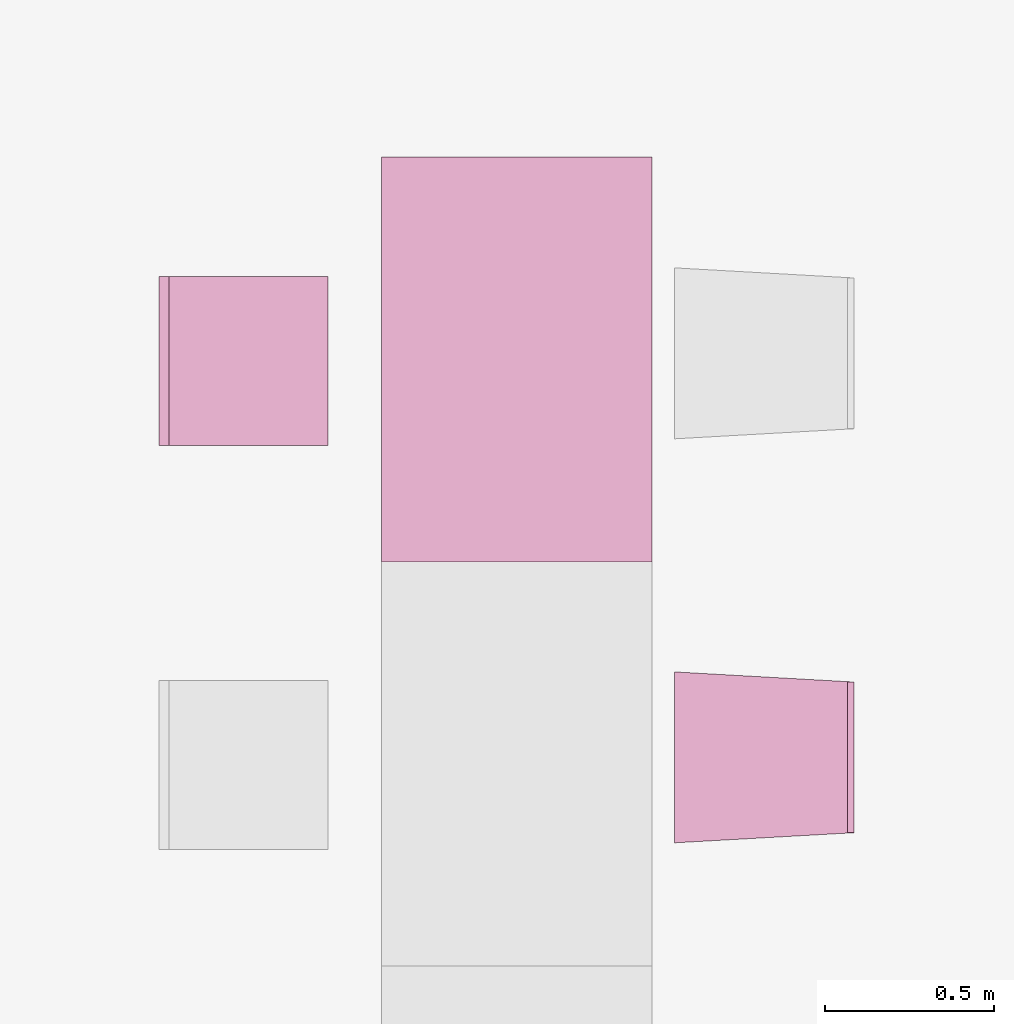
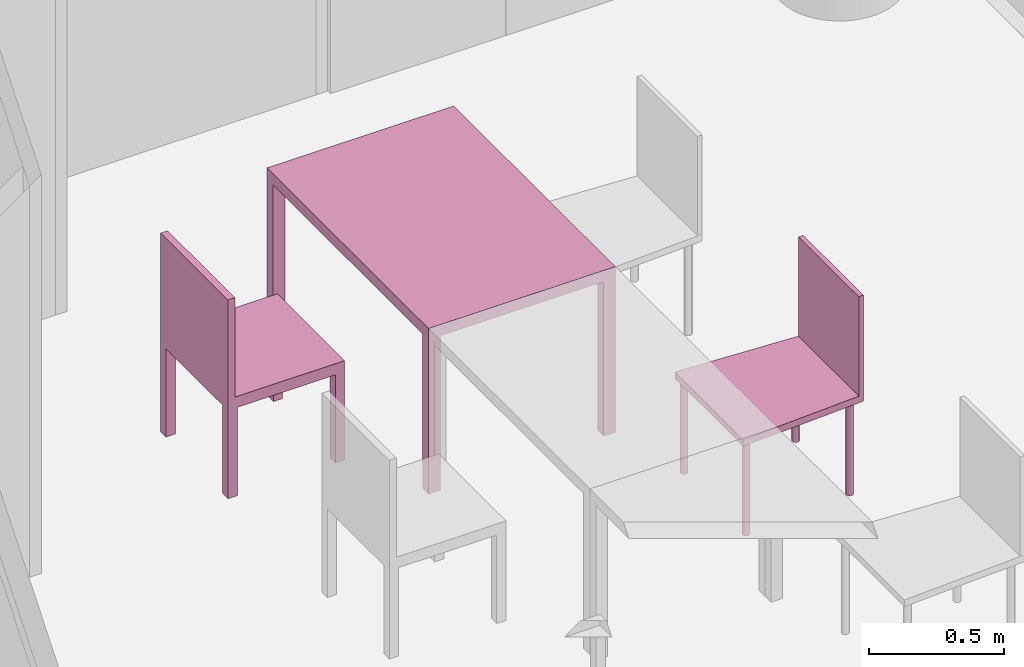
"""IFC4 building model written with IfcOpenShell, lengths in metres."""

import ifcopenshell
import ifcopenshell.guid

model = None  # the IFC model being written
_history = None  # IfcOwnerHistory: only IFC2X3 demands one
_inside = {}  # id of a spatial element -> (the spatial element, [elements in it])
_under = {}  # id of a project, library or spatial element -> (it, [spatial elements below it])
_declared = {}  # id of a project -> (the project, [libraries it declares])
_typed = {}  # id of a type object -> (the type object, [elements of that type])
_made_of = {}  # id of a material, layer set ... -> (it, [elements and type objects made of it])


def new_model(schema):
    """Start an empty IFC model of exactly this schema.

    Asked for "IFC4X3", IfcOpenShell would pick the latest addendum, in which some entities
    have other attributes; the version numbers below select the first issue.
    IFC2X3 requires an IfcOwnerHistory on every rooted entity: one is made here for all.
    """
    global model, _history
    if schema == "IFC4X3":
        model = ifcopenshell.file(schema_version=(4, 3, 0, 0))
    else:
        model = ifcopenshell.file(schema=schema)
    _inside.clear()
    _under.clear()
    _declared.clear()
    _typed.clear()
    _made_of.clear()
    _history = None
    if model.schema == "IFC2X3":
        org = make("IfcOrganization", Name="unknown")
        user = make(
            "IfcPersonAndOrganization",
            ThePerson=make("IfcPerson", FamilyName="unknown"),
            TheOrganization=org,
        )
        app = make(
            "IfcApplication",
            ApplicationDeveloper=org,
            Version="unknown",
            ApplicationFullName="unknown",
            ApplicationIdentifier="unknown",
        )
        _history = make(
            "IfcOwnerHistory",
            OwningUser=user,
            OwningApplication=app,
            ChangeAction="ADDED",
            CreationDate=0,
        )
    return model


def make(cls, **values):
    """One entity of the class cls with the attributes given. An attribute that is None is left unset."""
    return model.create_entity(
        cls, **{name: value for name, value in values.items() if value is not None}
    )


def entity(cls, *values):
    """Any entity or typed value of the class cls, its attributes in the order of the schema. None: left unset."""
    e = model.create_entity(cls)
    for i, value in enumerate(values):
        if value is not None:
            e[i] = value
    return e


def rooted(cls, **values):
    """An entity with a GlobalId (a new one), such as an element, a storey or a relation."""
    return make(cls, GlobalId=ifcopenshell.guid.new(), OwnerHistory=_history, **values)


def si_unit(unit_type, name, prefix=None):
    """IfcSIUnit, for example si_unit("LENGTHUNIT", "METRE", prefix="MILLI")."""
    return make("IfcSIUnit", UnitType=unit_type, Prefix=prefix, Name=name)


def converted_unit(unit_type, name, factor, base, dimensions=None, offset=None):
    """IfcConversionBasedUnit, such as the inch: factor (a typed value) times the base unit."""
    return make(
        "IfcConversionBasedUnit"
        if offset is None
        else "IfcConversionBasedUnitWithOffset",
        ConversionOffset=offset,
        Dimensions=None
        if dimensions is None
        else entity("IfcDimensionalExponents", *dimensions),
        UnitType=unit_type,
        Name=name,
        ConversionFactor=make(
            "IfcMeasureWithUnit", ValueComponent=factor, UnitComponent=base
        ),
    )


def derived_unit(unit_type, elements):
    """IfcDerivedUnit: a product of units, each with its exponent."""
    return make(
        "IfcDerivedUnit",
        Elements=[
            make("IfcDerivedUnitElement", Unit=unit, Exponent=power)
            for unit, power in elements
        ],
        UnitType=unit_type,
    )


def assignment(units):
    """IfcUnitAssignment: the units of a project."""
    return None if units is None else make("IfcUnitAssignment", Units=units)


def point(xyz):
    """IfcCartesianPoint."""
    return None if xyz is None else make("IfcCartesianPoint", Coordinates=xyz)


def direction(xyz):
    """IfcDirection."""
    return None if xyz is None else make("IfcDirection", DirectionRatios=xyz)


def frame(location, z_axis=None, x_axis=None):
    """IfcAxis2Placement3D, a coordinate frame: its origin and axes. An axis left out is left unset."""
    return make(
        "IfcAxis2Placement3D",
        Location=point(location),
        Axis=direction(z_axis),
        RefDirection=direction(x_axis),
    )


def origin():
    """The frame at (0, 0, 0) with its axes left unset."""
    return frame((0.0, 0.0, 0.0))


def place(relative_to, where):
    """IfcLocalPlacement: puts the frame where relative to a parent placement (None: the world)."""
    return make(
        "IfcLocalPlacement", PlacementRelTo=relative_to, RelativePlacement=where
    )


def context(
    kind, dimensions, precision=None, world=None, true_north=None, identifier=None
):
    """IfcGeometricRepresentationContext, for example the 3D "Model" context."""
    return make(
        "IfcGeometricRepresentationContext",
        ContextIdentifier=identifier,
        ContextType=kind,
        CoordinateSpaceDimension=dimensions,
        Precision=precision,
        WorldCoordinateSystem=world,
        TrueNorth=true_north,
    )


def subcontext(parent, identifier, kind, view, scale=None):
    """IfcGeometricRepresentationSubContext, for example "Body" below "Model"."""
    return make(
        "IfcGeometricRepresentationSubContext",
        ContextIdentifier=identifier,
        ContextType=kind,
        ParentContext=parent,
        TargetScale=scale,
        TargetView=view,
    )


def project(units=None, contexts=None):
    """IfcProject with its units and contexts."""
    return rooted(
        "IfcProject",
        Name="project",
        RepresentationContexts=contexts,
        UnitsInContext=assignment(units),
    )


def spatial(cls, under=None, at=None, **own):
    """A site, building, storey or space (cls), placed at a placement, below another one or the project."""
    s = rooted(cls, ObjectPlacement=at, **own)
    if under is not None:
        _under.setdefault(under.id(), (under, []))[1].append(s)
    return s


def faces_of(points, faces, orient=None, outer=None):
    """IfcFace entities. A face is a list of loops; a loop is a list of indices into points, from 0.

    orient and outer hold one flag for each loop. By default every Orientation is true, the
    first loop of a face is its IfcFaceOuterBound and the others are IfcFaceBound.
    """
    made = []
    for i, loops in enumerate(faces):
        bounds = []
        for j, loop in enumerate(loops):
            is_outer = j == 0 if outer is None else outer[i][j]
            bounds.append(
                make(
                    "IfcFaceOuterBound" if is_outer else "IfcFaceBound",
                    Bound=make("IfcPolyLoop", Polygon=[points[k] for k in loop]),
                    Orientation=True if orient is None else orient[i][j],
                )
            )
        made.append(make("IfcFace", Bounds=bounds))
    return made


def faceted_brep(points, faces, orient=None, outer=None, voids=None):
    """IfcFacetedBrep: a solid bounded by flat faces; with voids (closed shells), ...WithVoids."""
    shared = [point(p) for p in points]
    hull = make("IfcClosedShell", CfsFaces=faces_of(shared, faces, orient, outer))
    if voids is None:
        return make("IfcFacetedBrep", Outer=hull)
    return make(
        "IfcFacetedBrepWithVoids",
        Outer=hull,
        Voids=[
            make(cls, CfsFaces=faces_of(shared, fs, o, b)) for cls, fs, o, b in voids
        ],
    )


def shape(context_of_items, identifier, shape_type, items):
    """IfcShapeRepresentation: the items that make up one representation, for example the "Body"."""
    return make(
        "IfcShapeRepresentation",
        ContextOfItems=context_of_items,
        RepresentationIdentifier=identifier,
        RepresentationType=shape_type,
        Items=items,
    )


def made_of(thing, what):
    """Note that an element or type object is made of a material, layer set ...; save() writes the relation."""
    if what is not None:
        _made_of.setdefault(what.id(), (what, []))[1].append(thing)
    return thing


def element(
    cls,
    number,
    at=None,
    inside=None,
    cuts=None,
    type_object=None,
    material=None,
    context=None,
    identifier="Body",
    shape_type=None,
    held_by="IfcProductDefinitionShape",
    body=None,
    shapes=None,
    **own,
):
    """One element of the class cls, such as IfcWall. Its Tag is "e" and its number.

    at: its placement. inside: the storey or other place that contains it. cuts: it is an
    opening in that element (IfcRelVoidsElement). A single representation is given by context,
    identifier, shape_type and body (its items); several are given by shapes. held_by: the class
    of the entity that holds the representations. save() writes the other relations.
    """
    e = rooted(cls, Tag="e%d" % number, ObjectPlacement=at, **own)
    if body is not None:
        shapes = [shape(context, identifier, shape_type, body)]
    if shapes is not None:
        e.Representation = make(held_by, Representations=shapes)
    if inside is not None:
        _inside.setdefault(inside.id(), (inside, []))[1].append(e)
    if cuts is not None:
        rooted(
            "IfcRelVoidsElement", RelatingBuildingElement=cuts, RelatedOpeningElement=e
        )
    if type_object is not None:
        _typed.setdefault(type_object.id(), (type_object, []))[1].append(e)
    return made_of(e, material)


def aggregate(whole, parts):
    """IfcRelAggregates: a whole, such as a stair, and the parts it consists of."""
    return rooted("IfcRelAggregates", RelatingObject=whole, RelatedObjects=parts)


def save(model, path):
    """Write the relations noted so far, then the file.

    IfcRelAggregates (storeys below a building ...), IfcRelContainedInSpatialStructure (elements
    in a storey), IfcRelDefinesByType, IfcRelAssociatesMaterial and IfcRelDeclares: one each for
    every whole, place, type object, material and project.
    """
    for whole, parts in _under.values():
        aggregate(whole, parts)
    for where, things in _inside.values():
        rooted(
            "IfcRelContainedInSpatialStructure",
            RelatedElements=things,
            RelatingStructure=where,
        )
    for kind, things in _typed.values():
        rooted("IfcRelDefinesByType", RelatedObjects=things, RelatingType=kind)
    for what, things in _made_of.values():
        rooted("IfcRelAssociatesMaterial", RelatedObjects=things, RelatingMaterial=what)
    for by, libraries in _declared.values():
        rooted("IfcRelDeclares", RelatingContext=by, RelatedDefinitions=libraries)
    model.write(path)


model = new_model("IFC4")

# Units and contexts
model_context = context("Model", 3, precision=1e-05, world=origin())
body_context = subcontext(model_context, "Body", "Model", "MODEL_VIEW")
ifc_project = project(units=[si_unit("LENGTHUNIT", "METRE"), si_unit("AREAUNIT", "SQUARE_METRE"), si_unit("VOLUMEUNIT", "CUBIC_METRE"), si_unit("MASSUNIT", "GRAM", prefix="KILO"), converted_unit("PLANEANGLEUNIT", "DEGREE", entity("IfcPlaneAngleMeasure", 0.0174532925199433), si_unit("PLANEANGLEUNIT", "RADIAN"), dimensions=[0, 0, 0, 0, 0, 0, 0]), derived_unit("THERMALTRANSMITTANCEUNIT", [(si_unit("POWERUNIT", "WATT"), 1), (si_unit("THERMODYNAMICTEMPERATUREUNIT", "KELVIN"), -1), (si_unit("LENGTHUNIT", "METRE"), -2)]), derived_unit("VOLUMETRICFLOWRATEUNIT", [(si_unit("LENGTHUNIT", "METRE"), 3), (converted_unit("TIMEUNIT", "hour", entity("IfcTimeMeasure", 3600.0), si_unit("TIMEUNIT", "SECOND"), dimensions=[0, 0, 1, 0, 0, 0, 0]), -1), (si_unit("LENGTHUNIT", "METRE"), -1)])], contexts=[model_context])

# Building, storeys
building_placement = place(None, origin())
building = spatial("IfcBuilding", under=ifc_project, at=building_placement, Name="HABITATGE PLURIFAMILIAR", CompositionType="ELEMENT")
storey_1_placement = place(building_placement, frame((0.0, 0.0, 6.25)))
storey_1 = spatial("IfcBuildingStorey", under=building, at=storey_1_placement, Name="PLANTA PRIMERA", CompositionType="ELEMENT", Elevation=6.25)
storey_2_placement = place(storey_1_placement, frame((0.0, 0.0, 3.35)))
storey_2 = spatial("IfcBuildingStorey", under=storey_1, at=storey_2_placement, Name="NOU", CompositionType="PARTIAL")

# Furniture
furniture_1_placement = place(storey_2_placement, frame((418.017336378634, 21.7941704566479, -3.35)))
element("IfcFurniture", 1, at=furniture_1_placement, inside=storey_2, Name="Taula 120X80_P1", context=body_context, shape_type="Brep", body=[
    faceted_brep([(0.750069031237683, 0.0464285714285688, 0.0), (0.750069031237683, 0.0, 0.0), (0.800069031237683, 0.0, 0.0), (0.800069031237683, 0.0464285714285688, 0.0), (0.800069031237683, 0.0464285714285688, 0.7), (0.800069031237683, 0.0, 0.7), (0.750069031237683, 0.0, 0.7), (0.750069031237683, 0.0464285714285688, 0.7)], [[[0, 1, 2, 3]], [[4, 5, 6, 7]], [[3, 4, 7, 0]], [[2, 5, 4, 3]], [[1, 6, 5, 2]], [[0, 7, 6, 1]]], orient=[[False], [False], [False], [False], [False], [False]]),
    faceted_brep([(0.0, 0.0464285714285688, 0.0), (0.0, 0.0, 0.0), (0.0500000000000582, 0.0, 0.0), (0.0500000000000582, 0.0464285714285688, 0.0), (0.0500000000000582, 0.0464285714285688, 0.7), (0.0500000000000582, 0.0, 0.7), (0.0, 0.0, 0.7), (0.0, 0.0464285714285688, 0.7)], [[[0, 1, 2, 3]], [[4, 5, 6, 7]], [[3, 4, 7, 0]], [[2, 5, 4, 3]], [[1, 6, 5, 2]], [[0, 7, 6, 1]]], orient=[[False], [False], [False], [False], [False], [False]]),
    faceted_brep([(0.750069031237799, 1.2, 0.0), (0.750069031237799, 1.15357142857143, 0.0), (0.800069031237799, 1.15357142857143, 0.0), (0.800069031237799, 1.2, 0.0), (0.800069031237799, 1.2, 0.7), (0.800069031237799, 1.15357142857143, 0.7), (0.750069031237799, 1.15357142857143, 0.7), (0.750069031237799, 1.2, 0.7)], [[[0, 1, 2, 3]], [[4, 5, 6, 7]], [[3, 4, 7, 0]], [[2, 5, 4, 3]], [[1, 6, 5, 2]], [[0, 7, 6, 1]]], orient=[[False], [False], [False], [False], [False], [False]]),
    faceted_brep([(0.0, 1.2, 0.0), (0.0, 1.15357142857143, 0.0), (0.0500000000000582, 1.15357142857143, 0.0), (0.0500000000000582, 1.2, 0.0), (0.0500000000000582, 1.2, 0.7), (0.0500000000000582, 1.15357142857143, 0.7), (0.0, 1.15357142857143, 0.7), (0.0, 1.2, 0.7)], [[[0, 1, 2, 3]], [[4, 5, 6, 7]], [[3, 4, 7, 0]], [[2, 5, 4, 3]], [[1, 6, 5, 2]], [[0, 7, 6, 1]]], orient=[[False], [False], [False], [False], [False], [False]]),
    faceted_brep([(0.0, 1.2, 0.7), (0.0, 0.0, 0.7), (0.800069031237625, 0.0, 0.7), (0.800069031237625, 1.2, 0.7), (0.800069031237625, 1.2, 0.75), (0.800069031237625, 0.0, 0.75), (0.0, 0.0, 0.75), (0.0, 1.2, 0.75)], [[[0, 1, 2, 3]], [[4, 5, 6, 7]], [[3, 4, 7, 0]], [[2, 5, 4, 3]], [[1, 6, 5, 2]], [[0, 7, 6, 1]]], orient=[[False], [False], [False], [False], [False], [False]]),
])
furniture_2_placement = place(storey_2_placement, frame((417.357575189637, 22.1401388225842, -3.34942958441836)))
element("IfcFurniture", 2, at=furniture_2_placement, inside=storey_2, Name="Cadira d'Oficina_P1", context=body_context, shape_type="Brep", body=[
    faceted_brep([(0.5, 0.0, 0.4), (0.5, 0.5, 0.4), (0.0, 0.5, 0.4), (0.0, 0.0, 0.4), (0.0, 0.0, 0.45), (0.0, 0.5, 0.45), (0.5, 0.5, 0.45), (0.5, 0.0, 0.45)], [[[0, 1, 2, 3]], [[4, 5, 6, 7]], [[3, 4, 7, 0]], [[2, 5, 4, 3]], [[1, 6, 5, 2]], [[0, 7, 6, 1]]], orient=[[False], [False], [False], [False], [False], [False]]),
    faceted_brep([(0.04, 0.5, 0.0), (0.0, 0.5, 0.0), (0.0, 0.46, 0.0), (0.04, 0.46, 0.0), (0.04, 0.46, 0.4), (0.0, 0.46, 0.4), (0.0, 0.5, 0.4), (0.04, 0.5, 0.4)], [[[0, 1, 2, 3]], [[4, 5, 6, 7]], [[3, 4, 7, 0]], [[2, 5, 4, 3]], [[1, 6, 5, 2]], [[0, 7, 6, 1]]], orient=[[False], [False], [False], [False], [False], [False]]),
    faceted_brep([(0.5, 0.5, 0.0), (0.46, 0.5, 0.0), (0.46, 0.46, 0.0), (0.5, 0.46, 0.0), (0.5, 0.46, 0.4), (0.46, 0.46, 0.4), (0.46, 0.5, 0.4), (0.5, 0.5, 0.4)], [[[0, 1, 2, 3]], [[4, 5, 6, 7]], [[3, 4, 7, 0]], [[2, 5, 4, 3]], [[1, 6, 5, 2]], [[0, 7, 6, 1]]], orient=[[False], [False], [False], [False], [False], [False]]),
    faceted_brep([(0.04, 0.04, 0.0), (0.0, 0.04, 0.0), (0.0, 0.0, 0.0), (0.04, 0.0, 0.0), (0.04, 0.0, 0.4), (0.0, 0.0, 0.4), (0.0, 0.04, 0.4), (0.04, 0.04, 0.4)], [[[0, 1, 2, 3]], [[4, 5, 6, 7]], [[3, 4, 7, 0]], [[2, 5, 4, 3]], [[1, 6, 5, 2]], [[0, 7, 6, 1]]], orient=[[False], [False], [False], [False], [False], [False]]),
    faceted_brep([(0.5, 0.04, 0.0), (0.46, 0.04, 0.0), (0.46, 0.0, 0.0), (0.5, 0.0, 0.0), (0.5, 0.0, 0.4), (0.46, 0.0, 0.4), (0.46, 0.04, 0.4), (0.5, 0.04, 0.4)], [[[0, 1, 2, 3]], [[4, 5, 6, 7]], [[3, 4, 7, 0]], [[2, 5, 4, 3]], [[1, 6, 5, 2]], [[0, 7, 6, 1]]], orient=[[False], [False], [False], [False], [False], [False]]),
    faceted_brep([(0.03, 0.5, 0.45), (0.0, 0.5, 0.45), (0.0, 0.0, 0.45), (0.03, 0.0, 0.45), (0.03, 0.0, 0.9), (0.0, 0.0, 0.9), (0.0, 0.5, 0.9), (0.03, 0.5, 0.9)], [[[0, 1, 2, 3]], [[4, 5, 6, 7]], [[3, 4, 7, 0]], [[2, 5, 4, 3]], [[1, 6, 5, 2]], [[0, 7, 6, 1]]], orient=[[False], [False], [False], [False], [False], [False]]),
])
furniture_3_placement = place(storey_2_placement, frame((418.884487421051, 20.9626927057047, -3.35114412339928)))
element("IfcFurniture", 3, at=furniture_3_placement, inside=storey_2, Name="Cadira confient_P1", context=body_context, shape_type="Brep", body=[
    faceted_brep([(0.0250324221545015, 0.497227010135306, 0.0), (0.0224394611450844, 0.496988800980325, 0.0), (0.0199272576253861, 0.496303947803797, 0.0), (0.0175721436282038, 0.495193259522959, 0.0), (0.015445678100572, 0.493690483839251, 0.0), (0.013612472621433, 0.491841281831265, 0.0), (0.0121282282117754, 0.489701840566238, 0.0), (0.0110380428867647, 0.487337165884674, 0.0), (0.0103750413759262, 0.48481910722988, 0.0), (0.0101593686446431, 0.482224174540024, 0.0), (0.0103975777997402, 0.479631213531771, 0.0), (0.0110824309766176, 0.477119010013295, 0.0), (0.0121931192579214, 0.474763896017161, 0.0), (0.0136958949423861, 0.472637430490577, 0.0), (0.0155450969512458, 0.470804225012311, 0.0), (0.017684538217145, 0.469319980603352, 0.0), (0.020049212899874, 0.468229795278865, 0.0), (0.0225672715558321, 0.467566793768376, 0.0), (0.0251622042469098, 0.467351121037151, 0.0), (0.027755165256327, 0.46758933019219, 0.0), (0.0302673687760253, 0.468274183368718, 0.0), (0.0326224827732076, 0.469384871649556, 0.0), (0.0347489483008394, 0.470887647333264, 0.0), (0.0365821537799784, 0.47273684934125, 0.0), (0.0380663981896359, 0.47487629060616, 0.0), (0.0391565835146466, 0.477240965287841, 0.0), (0.0398195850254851, 0.479759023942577, 0.0), (0.0400352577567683, 0.482353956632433, 0.0), (0.0397970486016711, 0.484946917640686, 0.0), (0.039112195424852, 0.48745912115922, 0.0), (0.03800150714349, 0.489814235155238, 0.0), (0.0364987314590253, 0.491940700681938, 0.0), (0.0346495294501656, 0.493773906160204, 0.0), (0.0325100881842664, 0.495258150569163, 0.0), (0.0301454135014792, 0.49634833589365, 0.0), (0.0276273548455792, 0.497011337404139, 0.0), (0.0250324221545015, 0.497227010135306, 0.448281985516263), (0.0276273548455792, 0.497011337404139, 0.448281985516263), (0.0301454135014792, 0.49634833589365, 0.448281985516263), (0.0325100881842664, 0.495258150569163, 0.448281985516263), (0.0346495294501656, 0.493773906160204, 0.448281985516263), (0.0364987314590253, 0.491940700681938, 0.448281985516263), (0.03800150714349, 0.489814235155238, 0.448281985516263), (0.039112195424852, 0.48745912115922, 0.448281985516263), (0.0397970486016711, 0.484946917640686, 0.448281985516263), (0.0400352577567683, 0.482353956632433, 0.448281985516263), (0.0398195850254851, 0.479759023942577, 0.448281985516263), (0.0391565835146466, 0.477240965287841, 0.448281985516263), (0.0380663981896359, 0.47487629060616, 0.448281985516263), (0.0365821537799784, 0.47273684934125, 0.448281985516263), (0.0347489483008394, 0.470887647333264, 0.448281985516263), (0.0326224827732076, 0.469384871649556, 0.448281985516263), (0.0302673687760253, 0.468274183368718, 0.448281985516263), (0.027755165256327, 0.46758933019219, 0.448281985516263), (0.0251622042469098, 0.467351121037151, 0.448281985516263), (0.0225672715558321, 0.467566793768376, 0.448281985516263), (0.020049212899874, 0.468229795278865, 0.448281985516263), (0.017684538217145, 0.469319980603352, 0.448281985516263), (0.0155450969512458, 0.470804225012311, 0.448281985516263), (0.0136958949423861, 0.472637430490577, 0.448281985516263), (0.0121931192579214, 0.474763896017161, 0.448281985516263), (0.0110824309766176, 0.477119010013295, 0.448281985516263), (0.0103975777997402, 0.479631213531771, 0.448281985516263), (0.0101593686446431, 0.482224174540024, 0.448281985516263), (0.0103750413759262, 0.48481910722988, 0.448281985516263), (0.0110380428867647, 0.487337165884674, 0.448281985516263), (0.0121282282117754, 0.489701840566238, 0.448281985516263), (0.013612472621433, 0.491841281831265, 0.448281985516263), (0.015445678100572, 0.493690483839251, 0.448281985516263), (0.0175721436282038, 0.495193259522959, 0.448281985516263), (0.0199272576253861, 0.496303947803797, 0.448281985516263), (0.0224394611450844, 0.496988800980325, 0.448281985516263)], [[[0, 1, 2, 3, 4, 5, 6, 7, 8, 9, 10, 11, 12, 13, 14, 15, 16, 17, 18, 19, 20, 21, 22, 23, 24, 25, 26, 27, 28, 29, 30, 31, 32, 33, 34, 35]], [[36, 37, 38, 39, 40, 41, 42, 43, 44, 45, 46, 47, 48, 49, 50, 51, 52, 53, 54, 55, 56, 57, 58, 59, 60, 61, 62, 63, 64, 65, 66, 67, 68, 69, 70, 71]], [[35, 37, 36, 0]], [[34, 38, 37, 35]], [[33, 39, 38, 34]], [[32, 40, 39, 33]], [[31, 41, 40, 32]], [[30, 42, 41, 31]], [[29, 43, 42, 30]], [[28, 44, 43, 29]], [[27, 45, 44, 28]], [[26, 46, 45, 27]], [[25, 47, 46, 26]], [[24, 48, 47, 25]], [[23, 49, 48, 24]], [[22, 50, 49, 23]], [[21, 51, 50, 22]], [[20, 52, 51, 21]], [[19, 53, 52, 20]], [[18, 54, 53, 19]], [[17, 55, 54, 18]], [[16, 56, 55, 17]], [[15, 57, 56, 16]], [[14, 58, 57, 15]], [[13, 59, 58, 14]], [[12, 60, 59, 13]], [[11, 61, 60, 12]], [[10, 62, 61, 11]], [[9, 63, 62, 10]], [[8, 64, 63, 9]], [[7, 65, 64, 8]], [[6, 66, 65, 7]], [[5, 67, 66, 6]], [[4, 68, 67, 5]], [[3, 69, 68, 4]], [[2, 70, 69, 3]], [[1, 71, 70, 2]], [[0, 36, 71, 1]]], orient=[[False], [False], [False], [False], [False], [False], [False], [False], [False], [False], [False], [False], [False], [False], [False], [False], [False], [False], [False], [False], [False], [False], [False], [False], [False], [False], [False], [False], [False], [False], [False], [False], [False], [False], [False], [False], [False], [False]]),
    faceted_brep([(0.487439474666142, 0.469589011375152, 0.0), (0.484846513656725, 0.469350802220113, 0.0), (0.482334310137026, 0.468665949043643, 0.0), (0.479979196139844, 0.467555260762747, 0.0), (0.477852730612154, 0.466052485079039, 0.0), (0.476019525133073, 0.464203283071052, 0.0), (0.474535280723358, 0.462063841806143, 0.0), (0.473445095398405, 0.459699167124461, 0.0), (0.472782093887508, 0.457181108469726, 0.0), (0.472566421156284, 0.45458617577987, 0.0), (0.472804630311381, 0.451993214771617, 0.0), (0.4734894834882, 0.449481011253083, 0.0), (0.474600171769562, 0.447125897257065, 0.0), (0.476102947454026, 0.444999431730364, 0.0), (0.477952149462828, 0.443166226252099, 0.0), (0.480091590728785, 0.44168198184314, 0.0), (0.482456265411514, 0.440591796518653, 0.0), (0.484974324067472, 0.439928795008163, 0.0), (0.487569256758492, 0.439713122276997, 0.0), (0.490162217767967, 0.439951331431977, 0.0), (0.492674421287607, 0.440636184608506, 0.0), (0.49502953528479, 0.441746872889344, 0.0), (0.49715600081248, 0.443249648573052, 0.0), (0.498989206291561, 0.445098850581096, 0.0), (0.500473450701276, 0.447238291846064, 0.0), (0.501563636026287, 0.449602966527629, 0.0), (0.502226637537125, 0.452121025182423, 0.0), (0.50244231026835, 0.454715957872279, 0.0), (0.502204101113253, 0.457308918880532, 0.0), (0.501519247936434, 0.459821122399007, 0.0), (0.500408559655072, 0.462176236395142, 0.0), (0.498905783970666, 0.464302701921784, 0.0), (0.497056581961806, 0.466135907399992, 0.0), (0.494917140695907, 0.467620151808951, 0.0), (0.49255246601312, 0.468710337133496, 0.0), (0.490034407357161, 0.469373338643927, 0.0), (0.487439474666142, 0.469589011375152, 0.448281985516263), (0.490034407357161, 0.469373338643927, 0.448281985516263), (0.49255246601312, 0.468710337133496, 0.448281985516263), (0.494917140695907, 0.467620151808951, 0.448281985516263), (0.497056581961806, 0.466135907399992, 0.448281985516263), (0.498905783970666, 0.464302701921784, 0.448281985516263), (0.500408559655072, 0.462176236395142, 0.448281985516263), (0.501519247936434, 0.459821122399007, 0.448281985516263), (0.502204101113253, 0.457308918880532, 0.448281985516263), (0.50244231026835, 0.454715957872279, 0.448281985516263), (0.502226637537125, 0.452121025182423, 0.448281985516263), (0.501563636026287, 0.449602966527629, 0.448281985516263), (0.500473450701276, 0.447238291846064, 0.448281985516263), (0.498989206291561, 0.445098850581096, 0.448281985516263), (0.49715600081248, 0.443249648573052, 0.448281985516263), (0.49502953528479, 0.441746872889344, 0.448281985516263), (0.492674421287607, 0.440636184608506, 0.448281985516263), (0.490162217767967, 0.439951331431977, 0.448281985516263), (0.487569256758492, 0.439713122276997, 0.448281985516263), (0.484974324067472, 0.439928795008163, 0.448281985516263), (0.482456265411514, 0.440591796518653, 0.448281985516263), (0.480091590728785, 0.44168198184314, 0.448281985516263), (0.477952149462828, 0.443166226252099, 0.448281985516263), (0.476102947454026, 0.444999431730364, 0.448281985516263), (0.474600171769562, 0.447125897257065, 0.448281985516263), (0.4734894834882, 0.449481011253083, 0.448281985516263), (0.472804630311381, 0.451993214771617, 0.448281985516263), (0.472566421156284, 0.45458617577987, 0.448281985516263), (0.472782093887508, 0.457181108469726, 0.448281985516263), (0.473445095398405, 0.459699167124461, 0.448281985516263), (0.474535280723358, 0.462063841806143, 0.448281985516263), (0.476019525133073, 0.464203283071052, 0.448281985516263), (0.477852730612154, 0.466052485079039, 0.448281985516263), (0.479979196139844, 0.467555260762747, 0.448281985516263), (0.482334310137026, 0.468665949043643, 0.448281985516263), (0.484846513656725, 0.469350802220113, 0.448281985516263)], [[[0, 1, 2, 3, 4, 5, 6, 7, 8, 9, 10, 11, 12, 13, 14, 15, 16, 17, 18, 19, 20, 21, 22, 23, 24, 25, 26, 27, 28, 29, 30, 31, 32, 33, 34, 35]], [[36, 37, 38, 39, 40, 41, 42, 43, 44, 45, 46, 47, 48, 49, 50, 51, 52, 53, 54, 55, 56, 57, 58, 59, 60, 61, 62, 63, 64, 65, 66, 67, 68, 69, 70, 71]], [[35, 37, 36, 0]], [[34, 38, 37, 35]], [[33, 39, 38, 34]], [[32, 40, 39, 33]], [[31, 41, 40, 32]], [[30, 42, 41, 31]], [[29, 43, 42, 30]], [[28, 44, 43, 29]], [[27, 45, 44, 28]], [[26, 46, 45, 27]], [[25, 47, 46, 26]], [[24, 48, 47, 25]], [[23, 49, 48, 24]], [[22, 50, 49, 23]], [[21, 51, 50, 22]], [[20, 52, 51, 21]], [[19, 53, 52, 20]], [[18, 54, 53, 19]], [[17, 55, 54, 18]], [[16, 56, 55, 17]], [[15, 57, 56, 16]], [[14, 58, 57, 15]], [[13, 59, 58, 14]], [[12, 60, 59, 13]], [[11, 61, 60, 12]], [[10, 62, 61, 11]], [[9, 63, 62, 10]], [[8, 64, 63, 9]], [[7, 65, 64, 8]], [[6, 66, 65, 7]], [[5, 67, 66, 6]], [[4, 68, 67, 5]], [[3, 69, 68, 4]], [[2, 70, 69, 3]], [[1, 71, 70, 2]], [[0, 36, 71, 1]]], orient=[[False], [False], [False], [False], [False], [False], [False], [False], [False], [False], [False], [False], [False], [False], [False], [False], [False], [False], [False], [False], [False], [False], [False], [False], [False], [False], [False], [False], [False], [False], [False], [False], [False], [False], [False], [False], [False], [False]]),
    faceted_brep([(0.0250324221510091, 0.0372270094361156, 0.0), (0.0224394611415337, 0.0369888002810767, 0.0), (0.0199272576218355, 0.036303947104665, 0.0), (0.0175721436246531, 0.0351932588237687, 0.0), (0.0154456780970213, 0.0336904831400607, 0.0), (0.0136124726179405, 0.0318412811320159, 0.0), (0.0121282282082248, 0.0297018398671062, 0.0), (0.0110380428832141, 0.0273371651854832, 0.0), (0.0103750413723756, 0.0248191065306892, 0.0), (0.0101593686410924, 0.0222241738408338, 0.0), (0.0103975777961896, 0.019631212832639, 0.0), (0.0110824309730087, 0.0171190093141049, 0.0), (0.0121931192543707, 0.0147638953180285, 0.0), (0.0136958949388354, 0.012637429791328, 0.0), (0.0155450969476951, 0.0108042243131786, 0.0), (0.0176845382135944, 0.00931997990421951, 0.0), (0.0200492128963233, 0.00822979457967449, 0.0), (0.0225672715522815, 0.00756679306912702, 0.0), (0.0251622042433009, 0.00735112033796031, 0.0), (0.0277551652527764, 0.00758932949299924, 0.0), (0.0302673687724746, 0.00827418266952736, 0.0), (0.0326224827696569, 0.00938487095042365, 0.0), (0.0347489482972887, 0.0108876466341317, 0.0), (0.0365821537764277, 0.0127368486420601, 0.0), (0.0380663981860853, 0.014876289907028, 0.0), (0.039156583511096, 0.017240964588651, 0.0), (0.0398195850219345, 0.019759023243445, 0.0), (0.0400352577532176, 0.0223539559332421, 0.0), (0.0397970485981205, 0.0249469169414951, 0.0), (0.0391121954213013, 0.0274591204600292, 0.0), (0.0380015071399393, 0.0298142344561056, 0.0), (0.0364987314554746, 0.0319406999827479, 0.0), (0.0346495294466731, 0.0337739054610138, 0.0), (0.0325100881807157, 0.0352581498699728, 0.0), (0.0301454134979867, 0.0363483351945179, 0.0), (0.0276273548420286, 0.0370113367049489, 0.0), (0.0250324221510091, 0.0372270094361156, 0.448281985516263), (0.0276273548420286, 0.0370113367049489, 0.448281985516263), (0.0301454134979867, 0.0363483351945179, 0.448281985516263), (0.0325100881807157, 0.0352581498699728, 0.448281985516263), (0.0346495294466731, 0.0337739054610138, 0.448281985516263), (0.0364987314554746, 0.0319406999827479, 0.448281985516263), (0.0380015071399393, 0.0298142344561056, 0.448281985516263), (0.0391121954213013, 0.0274591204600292, 0.448281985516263), (0.0397970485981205, 0.0249469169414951, 0.448281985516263), (0.0400352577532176, 0.0223539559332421, 0.448281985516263), (0.0398195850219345, 0.019759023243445, 0.448281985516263), (0.039156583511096, 0.017240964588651, 0.448281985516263), (0.0380663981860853, 0.014876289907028, 0.448281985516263), (0.0365821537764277, 0.0127368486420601, 0.448281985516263), (0.0347489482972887, 0.0108876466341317, 0.448281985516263), (0.0326224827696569, 0.00938487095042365, 0.448281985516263), (0.0302673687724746, 0.00827418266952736, 0.448281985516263), (0.0277551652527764, 0.00758932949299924, 0.448281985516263), (0.0251622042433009, 0.00735112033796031, 0.448281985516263), (0.0225672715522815, 0.00756679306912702, 0.448281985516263), (0.0200492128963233, 0.00822979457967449, 0.448281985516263), (0.0176845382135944, 0.00931997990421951, 0.448281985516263), (0.0155450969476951, 0.0108042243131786, 0.448281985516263), (0.0136958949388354, 0.012637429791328, 0.448281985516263), (0.0121931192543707, 0.0147638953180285, 0.448281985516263), (0.0110824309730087, 0.0171190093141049, 0.448281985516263), (0.0103975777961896, 0.019631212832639, 0.448281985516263), (0.0101593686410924, 0.0222241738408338, 0.448281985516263), (0.0103750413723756, 0.0248191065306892, 0.448281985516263), (0.0110380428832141, 0.0273371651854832, 0.448281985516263), (0.0121282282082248, 0.0297018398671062, 0.448281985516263), (0.0136124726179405, 0.0318412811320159, 0.448281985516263), (0.0154456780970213, 0.0336904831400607, 0.448281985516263), (0.0175721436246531, 0.0351932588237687, 0.448281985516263), (0.0199272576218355, 0.036303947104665, 0.448281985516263), (0.0224394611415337, 0.0369888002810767, 0.448281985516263)], [[[0, 1, 2, 3, 4, 5, 6, 7, 8, 9, 10, 11, 12, 13, 14, 15, 16, 17, 18, 19, 20, 21, 22, 23, 24, 25, 26, 27, 28, 29, 30, 31, 32, 33, 34, 35]], [[36, 37, 38, 39, 40, 41, 42, 43, 44, 45, 46, 47, 48, 49, 50, 51, 52, 53, 54, 55, 56, 57, 58, 59, 60, 61, 62, 63, 64, 65, 66, 67, 68, 69, 70, 71]], [[35, 37, 36, 0]], [[34, 38, 37, 35]], [[33, 39, 38, 34]], [[32, 40, 39, 33]], [[31, 41, 40, 32]], [[30, 42, 41, 31]], [[29, 43, 42, 30]], [[28, 44, 43, 29]], [[27, 45, 44, 28]], [[26, 46, 45, 27]], [[25, 47, 46, 26]], [[24, 48, 47, 25]], [[23, 49, 48, 24]], [[22, 50, 49, 23]], [[21, 51, 50, 22]], [[20, 52, 51, 21]], [[19, 53, 52, 20]], [[18, 54, 53, 19]], [[17, 55, 54, 18]], [[16, 56, 55, 17]], [[15, 57, 56, 16]], [[14, 58, 57, 15]], [[13, 59, 58, 14]], [[12, 60, 59, 13]], [[11, 61, 60, 12]], [[10, 62, 61, 11]], [[9, 63, 62, 10]], [[8, 64, 63, 9]], [[7, 65, 64, 8]], [[6, 66, 65, 7]], [[5, 67, 66, 6]], [[4, 68, 67, 5]], [[3, 69, 68, 4]], [[2, 70, 69, 3]], [[1, 71, 70, 2]], [[0, 36, 71, 1]]], orient=[[False], [False], [False], [False], [False], [False], [False], [False], [False], [False], [False], [False], [False], [False], [False], [False], [False], [False], [False], [False], [False], [False], [False], [False], [False], [False], [False], [False], [False], [False], [False], [False], [False], [False], [False], [False], [False], [False]]),
    faceted_brep([(0.487439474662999, 0.0695890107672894, 0.0), (0.484846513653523, 0.0693508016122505, 0.0), (0.482334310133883, 0.0686659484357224, 0.0), (0.479979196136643, 0.0675552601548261, 0.0), (0.477852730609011, 0.0660524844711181, 0.0), (0.47601952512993, 0.0642032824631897, 0.0), (0.474535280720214, 0.0620638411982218, 0.0), (0.473445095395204, 0.0596991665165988, 0.0), (0.472782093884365, 0.0571811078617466, 0.0), (0.47256642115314, 0.0545861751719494, 0.0), (0.472804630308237, 0.0519932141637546, 0.0), (0.473489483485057, 0.0494810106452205, 0.0), (0.474600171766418, 0.0471258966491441, 0.0), (0.476102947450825, 0.0449994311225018, 0.0), (0.477952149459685, 0.043166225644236, 0.0), (0.480091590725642, 0.0416819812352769, 0.0), (0.482456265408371, 0.0405917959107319, 0.0), (0.484974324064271, 0.0399287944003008, 0.0), (0.487569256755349, 0.0397131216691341, 0.0), (0.490162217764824, 0.0399513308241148, 0.0), (0.492674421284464, 0.0406361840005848, 0.0), (0.495029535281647, 0.041746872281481, 0.0), (0.497156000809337, 0.0432496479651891, 0.0), (0.498989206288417, 0.0450988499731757, 0.0), (0.500473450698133, 0.0472382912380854, 0.0), (0.501563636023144, 0.0496029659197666, 0.0), (0.502226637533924, 0.0521210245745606, 0.0), (0.502442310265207, 0.0547159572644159, 0.0), (0.50220410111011, 0.0573089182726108, 0.0), (0.501519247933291, 0.0598211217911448, 0.0), (0.500408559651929, 0.062176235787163, 0.0), (0.498905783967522, 0.0643027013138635, 0.0), (0.497056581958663, 0.0661359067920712, 0.0), (0.494917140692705, 0.0676201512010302, 0.0), (0.492552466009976, 0.0687103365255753, 0.0), (0.490034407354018, 0.0693733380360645, 0.0), (0.487439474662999, 0.0695890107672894, 0.448281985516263), (0.490034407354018, 0.0693733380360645, 0.448281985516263), (0.492552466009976, 0.0687103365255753, 0.448281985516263), (0.494917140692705, 0.0676201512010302, 0.448281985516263), (0.497056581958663, 0.0661359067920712, 0.448281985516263), (0.498905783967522, 0.0643027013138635, 0.448281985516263), (0.500408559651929, 0.062176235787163, 0.448281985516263), (0.501519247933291, 0.0598211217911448, 0.448281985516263), (0.50220410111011, 0.0573089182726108, 0.448281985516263), (0.502442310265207, 0.0547159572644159, 0.448281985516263), (0.502226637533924, 0.0521210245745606, 0.448281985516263), (0.501563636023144, 0.0496029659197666, 0.448281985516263), (0.500473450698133, 0.0472382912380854, 0.448281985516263), (0.498989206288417, 0.0450988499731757, 0.448281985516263), (0.497156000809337, 0.0432496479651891, 0.448281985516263), (0.495029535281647, 0.041746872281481, 0.448281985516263), (0.492674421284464, 0.0406361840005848, 0.448281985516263), (0.490162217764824, 0.0399513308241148, 0.448281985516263), (0.487569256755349, 0.0397131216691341, 0.448281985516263), (0.484974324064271, 0.0399287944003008, 0.448281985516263), (0.482456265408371, 0.0405917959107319, 0.448281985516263), (0.480091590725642, 0.0416819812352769, 0.448281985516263), (0.477952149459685, 0.043166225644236, 0.448281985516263), (0.476102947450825, 0.0449994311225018, 0.448281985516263), (0.474600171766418, 0.0471258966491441, 0.448281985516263), (0.473489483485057, 0.0494810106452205, 0.448281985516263), (0.472804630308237, 0.0519932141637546, 0.448281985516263), (0.47256642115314, 0.0545861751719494, 0.448281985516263), (0.472782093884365, 0.0571811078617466, 0.448281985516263), (0.473445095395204, 0.0596991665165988, 0.448281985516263), (0.474535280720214, 0.0620638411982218, 0.448281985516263), (0.47601952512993, 0.0642032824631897, 0.448281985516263), (0.477852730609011, 0.0660524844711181, 0.448281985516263), (0.479979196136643, 0.0675552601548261, 0.448281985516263), (0.482334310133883, 0.0686659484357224, 0.448281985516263), (0.484846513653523, 0.0693508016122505, 0.448281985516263)], [[[0, 1, 2, 3, 4, 5, 6, 7, 8, 9, 10, 11, 12, 13, 14, 15, 16, 17, 18, 19, 20, 21, 22, 23, 24, 25, 26, 27, 28, 29, 30, 31, 32, 33, 34, 35]], [[36, 37, 38, 39, 40, 41, 42, 43, 44, 45, 46, 47, 48, 49, 50, 51, 52, 53, 54, 55, 56, 57, 58, 59, 60, 61, 62, 63, 64, 65, 66, 67, 68, 69, 70, 71]], [[35, 37, 36, 0]], [[34, 38, 37, 35]], [[33, 39, 38, 34]], [[32, 40, 39, 33]], [[31, 41, 40, 32]], [[30, 42, 41, 31]], [[29, 43, 42, 30]], [[28, 44, 43, 29]], [[27, 45, 44, 28]], [[26, 46, 45, 27]], [[25, 47, 46, 26]], [[24, 48, 47, 25]], [[23, 49, 48, 24]], [[22, 50, 49, 23]], [[21, 51, 50, 22]], [[20, 52, 51, 21]], [[19, 53, 52, 20]], [[18, 54, 53, 19]], [[17, 55, 54, 18]], [[16, 56, 55, 17]], [[15, 57, 56, 16]], [[14, 58, 57, 15]], [[13, 59, 58, 14]], [[12, 60, 59, 13]], [[11, 61, 60, 12]], [[10, 62, 61, 11]], [[9, 63, 62, 10]], [[8, 64, 63, 9]], [[7, 65, 64, 8]], [[6, 66, 65, 7]], [[5, 67, 66, 6]], [[4, 68, 67, 5]], [[3, 69, 68, 4]], [[2, 70, 69, 3]], [[1, 71, 70, 2]], [[0, 36, 71, 1]]], orient=[[False], [False], [False], [False], [False], [False], [False], [False], [False], [False], [False], [False], [False], [False], [False], [False], [False], [False], [False], [False], [False], [False], [False], [False], [False], [False], [False], [False], [False], [False], [False], [False], [False], [False], [False], [False], [False], [False]]),
    faceted_brep([(0.532607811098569, 0.0300000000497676, 0.418281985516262), (0.532607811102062, 0.476514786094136, 0.418281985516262), (0.0, 0.506514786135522, 0.418281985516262), (0.0, 0.0, 0.418281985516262), (0.0, 0.0, 0.448281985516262), (0.0, 0.506514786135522, 0.448281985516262), (0.532607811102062, 0.476514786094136, 0.448281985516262), (0.532607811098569, 0.0300000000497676, 0.448281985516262)], [[[0, 1, 2, 3]], [[4, 5, 6, 7]], [[3, 4, 7, 0]], [[2, 5, 4, 3]], [[1, 6, 5, 2]], [[0, 7, 6, 1]]], orient=[[False], [False], [False], [False], [False], [False]]),
    faceted_brep([(0.512607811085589, 0.0300000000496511, 0.448281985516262), (0.532607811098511, 0.0300000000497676, 0.448281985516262), (0.532607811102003, 0.476514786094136, 0.448281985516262), (0.512607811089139, 0.476514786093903, 0.448281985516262), (0.512607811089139, 0.476514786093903, 0.898281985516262), (0.532607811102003, 0.476514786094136, 0.898281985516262), (0.532607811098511, 0.0300000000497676, 0.898281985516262), (0.512607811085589, 0.0300000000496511, 0.898281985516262)], [[[0, 1, 2, 3]], [[4, 5, 6, 7]], [[3, 4, 7, 0]], [[2, 5, 4, 3]], [[1, 6, 5, 2]], [[0, 7, 6, 1]]], orient=[[False], [False], [False], [False], [False], [False]]),
])

save(model, "model.ifc")
